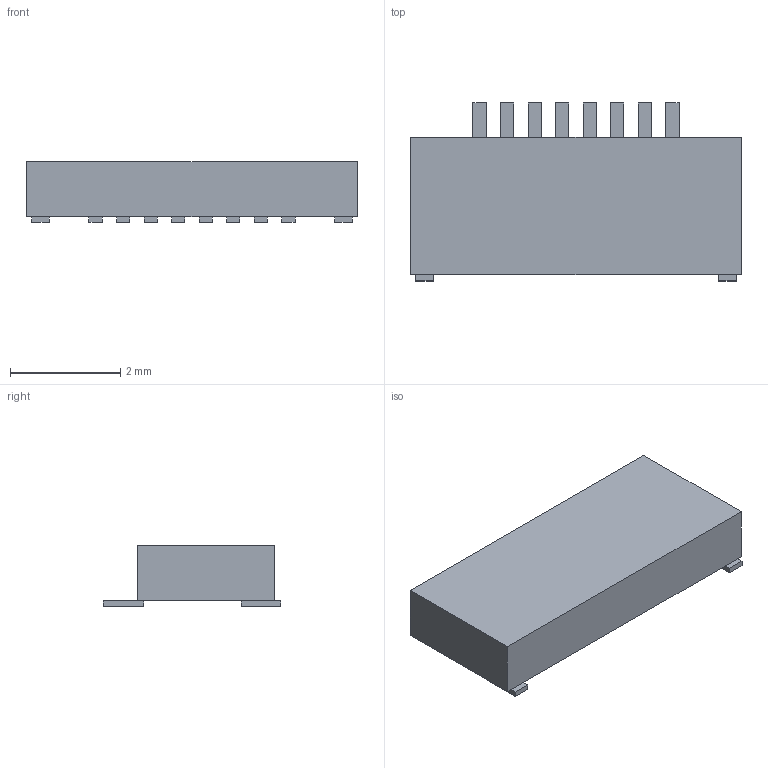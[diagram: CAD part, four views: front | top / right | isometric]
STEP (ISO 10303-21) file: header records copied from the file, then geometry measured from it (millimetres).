
FILE_DESCRIPTION(('FreeCAD Model'),'2;1');
FILE_NAME('/var/www/3D/0T/955708.2.3.stp','2024-12-11T12:25:38',( 'Author'),(''),'Open CASCADE STEP processor 6.9','FreeCAD','Unknown' );
FILE_SCHEMA(('AUTOMOTIVE_DESIGN { 1 0 10303 214 1 1 1 1 }'));
Length unit declared in the file: millimetre
Products named in the file (3): ASSEMBLY; Body; Pins
Assembly tree (2 placements, depth 2):
  ASSEMBLY
    Body
    Pins
Bounding box: 6 x 3.23 x 1.1 mm (x, y, z)
Volume: 15.2 mm3; surface area: 52.7 mm2
Topology: 11 solids, 11 shells, 66 faces, 132 edges, 88 vertices
Faces by surface type: plane 66
Entity records: 3521 total; most frequent: CARTESIAN_POINT 553, DIRECTION 534, LINE 396, VECTOR 396, ORIENTED_EDGE 264, PCURVE 264, DEFINITIONAL_REPRESENTATION 264, EDGE_CURVE 132
